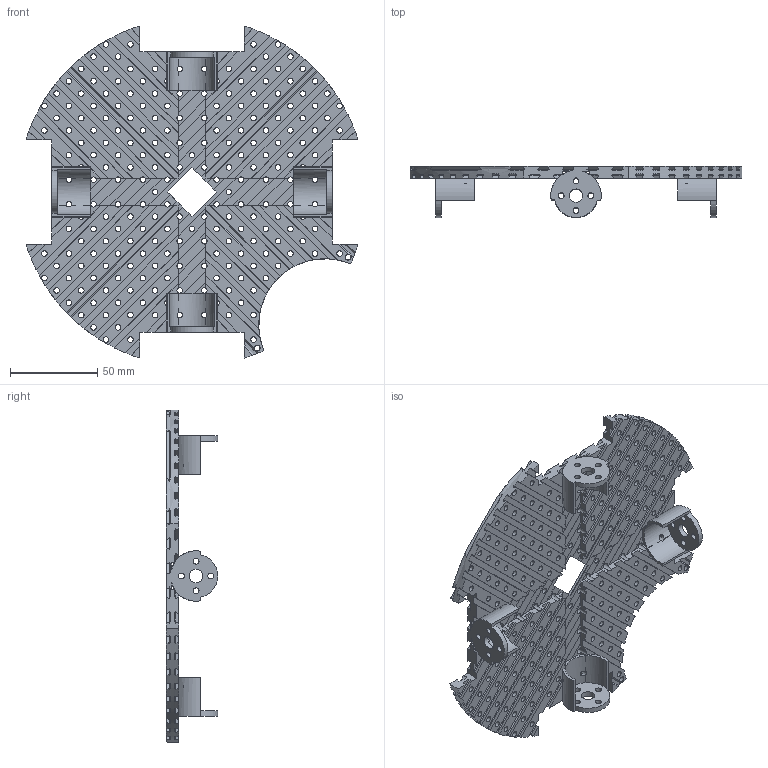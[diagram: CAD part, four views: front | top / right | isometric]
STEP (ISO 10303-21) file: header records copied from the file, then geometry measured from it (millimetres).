
FILE_DESCRIPTION(/* description */ (''),/* implementation_level */ '2;1');
FILE_NAME(/* name */ 'C:/Users/priba/Downloads/mrm-rob-socc-board-a.step',/* time_stamp */ '2020-11-08T21:01:53+01:00',/* author */ (''),/* organization */ (''),/* preprocessor_version */ 'ST-DEVELOPER v18.1',/* originating_system */ 'Autodesk Translation Framework v9.3.0.1241',/* authorisation */ '');
FILE_SCHEMA (('AUTOMOTIVE_DESIGN { 1 0 10303 214 3 1 1 }'));
Length unit declared in the file: millimetre
Products named in the file (1): mrm-rob-socc-board-a
Bounding box: 190.79 x 29.65 x 190.79 mm (x, y, z)
Volume: 115228.3 mm3; surface area: 101658.9 mm2
Topology: 1 solids, 1 shells, 960 faces, 3068 edges, 2044 vertices
Faces by surface type: plane 688, cylinder 272
Full cylindrical faces by diameter (mm): 3.2 x220, 3.3 x2, 3.4 x16, 7.7 x4
Entity records: 35876 total; most frequent: CARTESIAN_POINT 6729, ORIENTED_EDGE 6136, DIRECTION 6044, EDGE_CURVE 3068, AXIS2_PLACEMENT_3D 2059, VERTEX_POINT 2044, LINE 1926, VECTOR 1926
